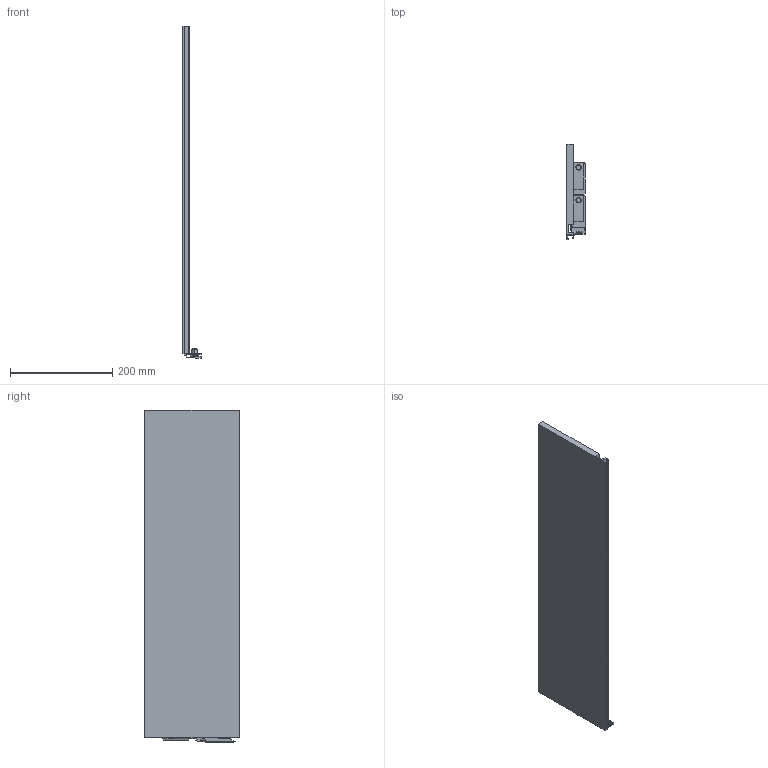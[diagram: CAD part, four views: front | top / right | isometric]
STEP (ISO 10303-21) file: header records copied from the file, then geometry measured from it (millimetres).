
FILE_DESCRIPTION (( 'STEP AP214' ), '1' );
FILE_NAME ('Vionaro_Alu-Zarge_H185_NL650_LI.STEP', '2014-08-20T15:08:49', ( '' ), ( '' ), 'SwSTEP 2.0', 'SolidWorks 2013', '' );
FILE_SCHEMA (( 'AUTOMOTIVE_DESIGN' ));
Length unit declared in the file: millimetre
Products named in the file (1): Vionaro_Alu-Zarge_H185_NL650_LI
Bounding box: 35.6 x 185 x 647.9 mm (x, y, z)
Volume: 1382921.9 mm3; surface area: 293397.5 mm2
Topology: 1 solids, 1 shells, 136 faces, 356 edges, 233 vertices
Faces by surface type: plane 96, cylinder 32, cone 8
Entity records: 4187 total; most frequent: CARTESIAN_POINT 732, ORIENTED_EDGE 712, DIRECTION 701, EDGE_CURVE 356, VECTOR 281, LINE 281, VERTEX_POINT 233, AXIS2_PLACEMENT_3D 210
